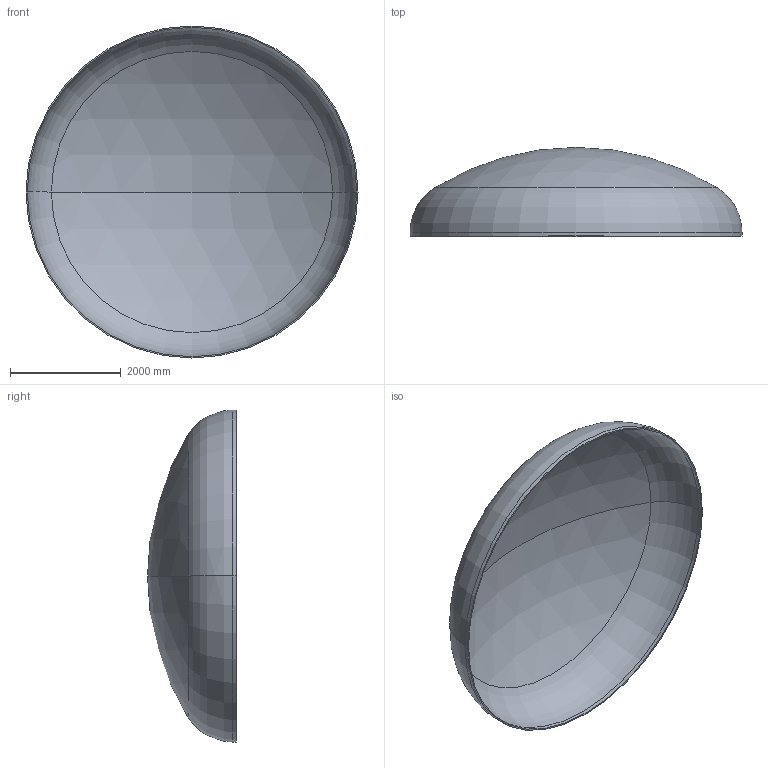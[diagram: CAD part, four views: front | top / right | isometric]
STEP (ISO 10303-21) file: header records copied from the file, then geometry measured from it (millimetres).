
FILE_DESCRIPTION (( 'STEP AP203' ), '1' );
FILE_NAME ('DIN 28013 Korbbogenform_-_Boden DIN 28013 - 6000 x 70 - I - s=23.step', '2016-07-04T10:36:10', ( '' ), ( '' ), 'SwSTEP 2.0', 'SolidWorks 2013', '' );
FILE_SCHEMA (( 'CONFIG_CONTROL_DESIGN' ));
Length unit declared in the file: millimetre
Products named in the file (1): DIN 28013 Korbbogenform_-_Boden DIN 28013 - 6000 x 70 - I - s=23
Bounding box: 6000 x 1605.92 x 6000 mm (x, y, z)
Volume: 926585382.4 mm3; surface area: 81005595.3 mm2
Topology: 1 solids, 1 shells, 13 faces, 24 edges, 14 vertices
Faces by surface type: torus 4, cylinder 4, sphere 4, plane 1
Entity records: 407 total; most frequent: DIRECTION 72, CARTESIAN_POINT 52, ORIENTED_EDGE 48, AXIS2_PLACEMENT_3D 34, EDGE_CURVE 24, CIRCLE 20, EDGE_LOOP 14, VERTEX_POINT 14
